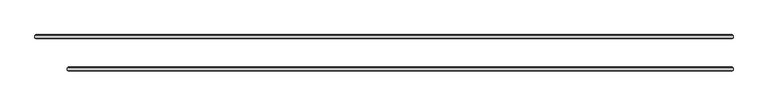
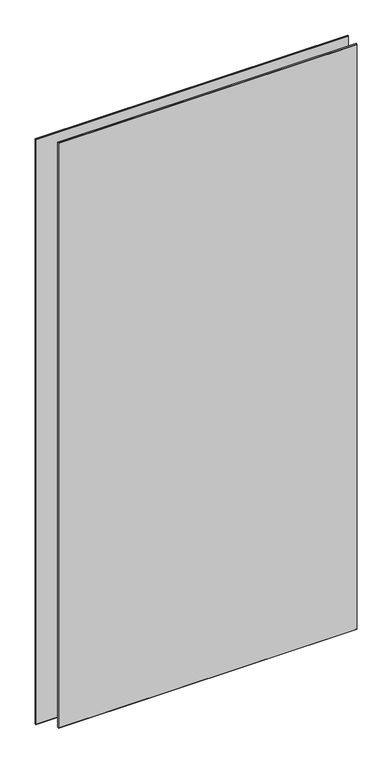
"""IFC4 building model written with IfcOpenShell, lengths in millimetres: plate geometry, 3-AMG-2-Панель двойной витраж 8, 10 : Смещение 32 Толщина 8mm."""

from ifc_helpers import new_model, si_unit, origin, place, context, project, spatial, faceted_brep, source, transform, mapped, element, save


def plate_327917cb(model_context):
    return source(origin(), model_context, "Body", "Brep", [
        faceted_brep([(682.2500674, 34.4961653, 2722.8), (-699.2500674, 34.4961653, 2722.8), (-699.2500674, 29.5038347, 2722.8), (682.2500674, 29.5038347, 2722.8), (682.2500674, 29.4960578, -7.0), (-699.2500674, 29.4960578, -7.0), (-699.2500674, 34.4961653, -7.0), (682.2500674, 34.4961653, -7.0), (-697.7462327, 28.0, 2721.2961653), (-697.7462327, 28.0, -5.5039422), (680.7462327, 28.0, -5.5039422), (680.7462327, 28.0, 2721.2961653), (680.7462327, 36.0, 2721.2961653), (680.7462327, 36.0, -5.4961653), (-697.7462327, 36.0, -5.4961653), (-697.7462327, 36.0, 2721.2961653)], [[[0, 1, 2, 3]], [[4, 5, 6, 7]], [[8, 9, 10, 11]], [[1, 6, 5, 2]], [[12, 13, 14, 15]], [[3, 4, 7, 0]], [[3, 11, 10, 4]], [[7, 13, 12, 0]], [[0, 12, 15, 1]], [[2, 8, 11, 3]], [[5, 9, 8, 2]], [[1, 15, 14, 6]], [[6, 14, 13, 7]], [[4, 10, 9, 5]]]),
        faceted_brep([(682.2500674, -29.5038347, 2722.8), (-635.2500674, -29.5038347, 2722.8), (-635.2500674, -34.4961653, 2722.8), (682.2500674, -34.4961653, 2722.8), (682.2500674, -34.5039422, -7.0), (-635.2500674, -34.5039422, -7.0), (-635.2500674, -29.5038347, -7.0), (682.2500674, -29.5038347, -7.0), (-633.7462327, -36.0, 2721.2961653), (-633.7462327, -36.0, -5.5039422), (680.7462327, -36.0, -5.5039422), (680.7462327, -36.0, 2721.2961653), (680.7462327, -28.0, 2721.2961653), (680.7462327, -28.0, -5.4961653), (-633.7462327, -28.0, -5.4961653), (-633.7462327, -28.0, 2721.2961653)], [[[0, 1, 2, 3]], [[4, 5, 6, 7]], [[8, 9, 10, 11]], [[1, 6, 5, 2]], [[12, 13, 14, 15]], [[3, 4, 7, 0]], [[3, 11, 10, 4]], [[7, 13, 12, 0]], [[5, 9, 8, 2]], [[1, 15, 14, 6]], [[0, 12, 15, 1]], [[2, 8, 11, 3]], [[6, 14, 13, 7]], [[4, 10, 9, 5]]]),
    ])


if __name__ == "__main__":
    model = new_model("IFC4")
    model_context = context("Model", 3, world=origin())
    ifc_project = project(units=[si_unit("LENGTHUNIT", "METRE", prefix="MILLI")], contexts=[model_context])
    site = spatial("IfcSite", under=ifc_project)
    building = spatial("IfcBuilding", under=site)
    placement = place(None, origin())
    plate_shape = plate_327917cb(model_context)
    element("IfcPlate", 1, ObjectType="3-AMG-2-Панель двойной витраж 8, 10 : Смещение 32 Толщина 8mm", at=placement, inside=building, context=model_context, shape_type="MappedRepresentation", body=[
        mapped(plate_shape, transform((0.0, 0.0, 0.0), x_axis=(1.0, 0.0, 0.0), y_axis=(0.0, 1.0, 0.0), z_axis=(0.0, 0.0, 1.0))),
    ])
    save(model, "model.ifc")
